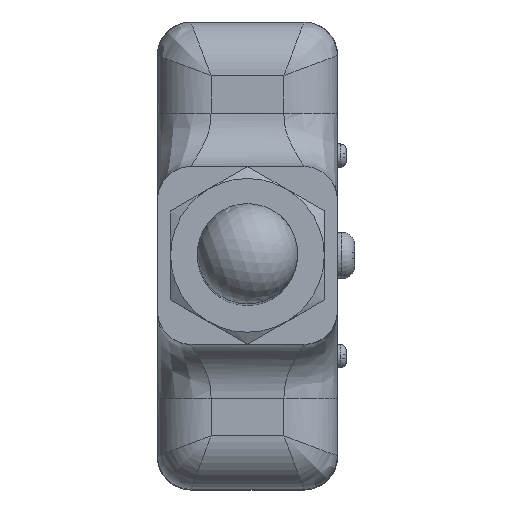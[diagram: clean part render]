
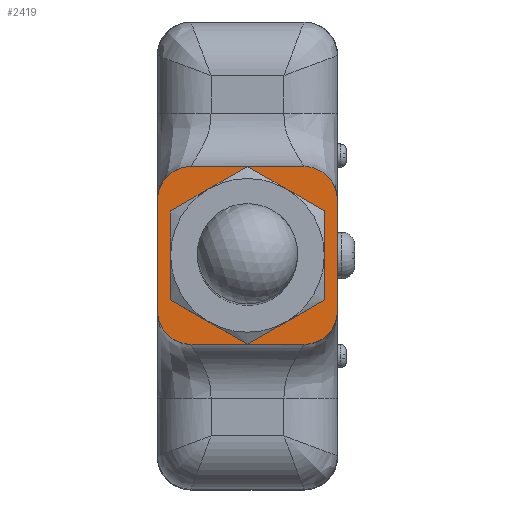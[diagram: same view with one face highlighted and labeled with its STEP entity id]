
A CAD part, top view. The second image highlights one B-rep face of the part: STEP entity #2419.
In plain terms, the highlighted planar face has unit normal (0, 0, 1).
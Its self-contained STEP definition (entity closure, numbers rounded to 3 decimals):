
#135 = CARTESIAN_POINT ( 'NONE',  ( 970.635, 984.248, 1059.131 ) ) ;
#200 = VERTEX_POINT ( 'NONE', #6001 ) ;
#224 = DIRECTION ( 'NONE',  ( -1., 0., 0. ) ) ;
#303 = CARTESIAN_POINT ( 'NONE',  ( 965.635, 1005.848, 1059.131 ) ) ;
#389 = AXIS2_PLACEMENT_3D ( 'NONE', #3031, #1305, #224 ) ;
#501 = ORIENTED_EDGE ( 'NONE', *, *, #4886, .T. ) ;
#861 = VERTEX_POINT ( 'NONE', #6735 ) ;
#911 = AXIS2_PLACEMENT_3D ( 'NONE', #5611, #7369, #6763 ) ;
#1015 = CARTESIAN_POINT ( 'NONE',  ( 992.535, 989.248, 1059.131 ) ) ;
#1039 = VERTEX_POINT ( 'NONE', #1284 ) ;
#1240 = EDGE_CURVE ( 'NONE', #5888, #4738, #6486, .T. ) ;
#1271 = FACE_OUTER_BOUND ( 'NONE', #2522, .T. ) ;
#1284 = CARTESIAN_POINT ( 'NONE',  ( 987.535, 1010.848, 1059.131 ) ) ;
#1305 = DIRECTION ( 'NONE',  ( 0., 0., 1. ) ) ;
#1338 = ORIENTED_EDGE ( 'NONE', *, *, #6852, .T. ) ;
#1360 = ORIENTED_EDGE ( 'NONE', *, *, #1240, .T. ) ;
#1437 = ORIENTED_EDGE ( 'NONE', *, *, #3921, .T. ) ;
#1459 = AXIS2_PLACEMENT_3D ( 'NONE', #5473, #4897, #3129 ) ;
#1512 = CIRCLE ( 'NONE', #5154, 5. ) ;
#1622 = DIRECTION ( 'NONE',  ( 0., 1., 0. ) ) ;
#1699 = DIRECTION ( 'NONE',  ( -1., 0., 0. ) ) ;
#1837 = ORIENTED_EDGE ( 'NONE', *, *, #4708, .T. ) ;
#2419 = ADVANCED_FACE ( 'NONE', ( #1271 ), #6022, .T. ) ;
#2522 = EDGE_LOOP ( 'NONE', ( #4924, #1360, #501, #1837, #1338, #3777, #1437, #4476 ) ) ;
#2614 = VECTOR ( 'NONE', #1699, 1000. ) ;
#2738 = CARTESIAN_POINT ( 'NONE',  ( 987.535, 1010.848, 1059.131 ) ) ;
#3031 = CARTESIAN_POINT ( 'NONE',  ( 970.635, 989.248, 1059.131 ) ) ;
#3129 = DIRECTION ( 'NONE',  ( 1., 0., 0. ) ) ;
#3425 = CARTESIAN_POINT ( 'NONE',  ( 970.635, 1005.848, 1059.131 ) ) ;
#3495 = CIRCLE ( 'NONE', #911, 5. ) ;
#3669 = LINE ( 'NONE', #5974, #7106 ) ;
#3777 = ORIENTED_EDGE ( 'NONE', *, *, #5975, .T. ) ;
#3921 = EDGE_CURVE ( 'NONE', #861, #7415, #5646, .T. ) ;
#3977 = CARTESIAN_POINT ( 'NONE',  ( 987.535, 984.248, 1059.131 ) ) ;
#4190 = AXIS2_PLACEMENT_3D ( 'NONE', #3425, #7359, #5115 ) ;
#4371 = CIRCLE ( 'NONE', #1459, 5. ) ;
#4476 = ORIENTED_EDGE ( 'NONE', *, *, #6278, .T. ) ;
#4614 = CARTESIAN_POINT ( 'NONE',  ( 970.635, 989.248, 1059.131 ) ) ;
#4708 = EDGE_CURVE ( 'NONE', #5252, #5527, #7255, .T. ) ;
#4738 = VERTEX_POINT ( 'NONE', #3977 ) ;
#4870 = DIRECTION ( 'NONE',  ( 0., 0., 1. ) ) ;
#4886 = EDGE_CURVE ( 'NONE', #4738, #5252, #3495, .T. ) ;
#4897 = DIRECTION ( 'NONE',  ( 0., 0., 1. ) ) ;
#4924 = ORIENTED_EDGE ( 'NONE', *, *, #6221, .T. ) ;
#4966 = VECTOR ( 'NONE', #6369, 1000. ) ;
#5115 = DIRECTION ( 'NONE',  ( 1., 0., 0. ) ) ;
#5154 = AXIS2_PLACEMENT_3D ( 'NONE', #4614, #4870, #5370 ) ;
#5252 = VERTEX_POINT ( 'NONE', #5593 ) ;
#5370 = DIRECTION ( 'NONE',  ( -1., 0., 0. ) ) ;
#5473 = CARTESIAN_POINT ( 'NONE',  ( 987.535, 1005.848, 1059.131 ) ) ;
#5527 = VERTEX_POINT ( 'NONE', #6616 ) ;
#5593 = CARTESIAN_POINT ( 'NONE',  ( 992.535, 989.248, 1059.131 ) ) ;
#5611 = CARTESIAN_POINT ( 'NONE',  ( 987.535, 989.248, 1059.131 ) ) ;
#5646 = CIRCLE ( 'NONE', #4190, 5. ) ;
#5888 = VERTEX_POINT ( 'NONE', #135 ) ;
#5912 = CARTESIAN_POINT ( 'NONE',  ( 987.535, 984.248, 1059.131 ) ) ;
#5974 = CARTESIAN_POINT ( 'NONE',  ( 965.635, 989.248, 1059.131 ) ) ;
#5975 = EDGE_CURVE ( 'NONE', #1039, #861, #6263, .T. ) ;
#6001 = CARTESIAN_POINT ( 'NONE',  ( 965.635, 989.248, 1059.131 ) ) ;
#6022 = PLANE ( 'NONE',  #389 ) ;
#6221 = EDGE_CURVE ( 'NONE', #200, #5888, #1512, .T. ) ;
#6263 = LINE ( 'NONE', #2738, #2614 ) ;
#6278 = EDGE_CURVE ( 'NONE', #7415, #200, #3669, .T. ) ;
#6369 = DIRECTION ( 'NONE',  ( 1., 0., 0. ) ) ;
#6486 = LINE ( 'NONE', #5912, #4966 ) ;
#6582 = DIRECTION ( 'NONE',  ( 0., -1., 0. ) ) ;
#6616 = CARTESIAN_POINT ( 'NONE',  ( 992.535, 1005.848, 1059.131 ) ) ;
#6735 = CARTESIAN_POINT ( 'NONE',  ( 970.635, 1010.848, 1059.131 ) ) ;
#6763 = DIRECTION ( 'NONE',  ( -1., 0., 0. ) ) ;
#6852 = EDGE_CURVE ( 'NONE', #5527, #1039, #4371, .T. ) ;
#7000 = VECTOR ( 'NONE', #1622, 1000. ) ;
#7106 = VECTOR ( 'NONE', #6582, 1000. ) ;
#7255 = LINE ( 'NONE', #1015, #7000 ) ;
#7359 = DIRECTION ( 'NONE',  ( 0., 0., 1. ) ) ;
#7369 = DIRECTION ( 'NONE',  ( 0., 0., 1. ) ) ;
#7415 = VERTEX_POINT ( 'NONE', #303 ) ;
